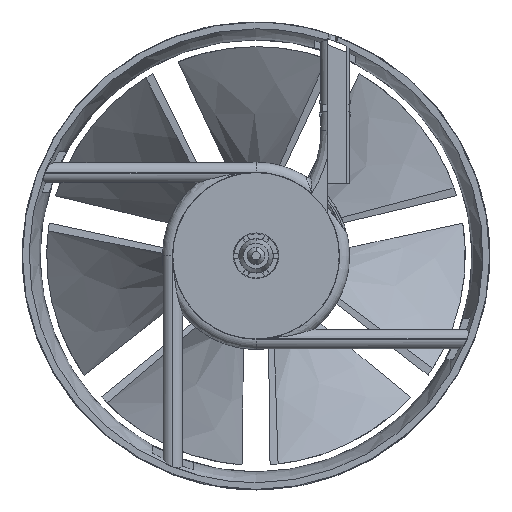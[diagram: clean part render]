
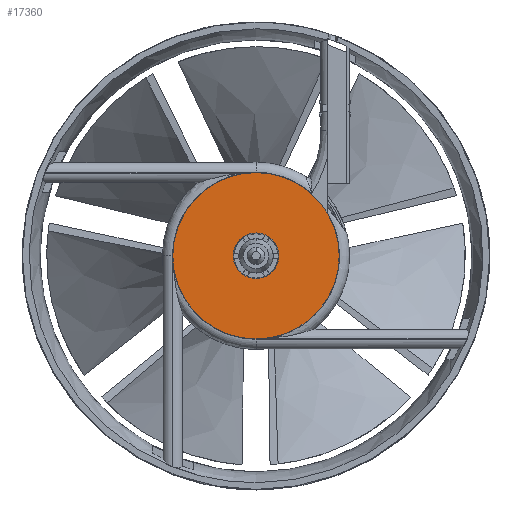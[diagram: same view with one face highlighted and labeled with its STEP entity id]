
A CAD part, top view. The second image highlights one B-rep face of the part: STEP entity #17360.
In plain terms, the highlighted planar face has unit normal (0, 0, 1).
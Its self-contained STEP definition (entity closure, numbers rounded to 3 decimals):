
#7147=CARTESIAN_POINT('',(0.,0.,-0.5));
#7148=DIRECTION('',(0.,0.,-1.));
#7149=DIRECTION('',(0.,1.,0.));
#7150=AXIS2_PLACEMENT_3D('',#7147,#7148,#7149);
#7152=CARTESIAN_POINT('',(0.,0.,-0.5));
#7153=DIRECTION('',(0.,0.,-1.));
#7154=DIRECTION('',(0.,-1.,0.));
#7155=AXIS2_PLACEMENT_3D('',#7152,#7153,#7154);
#7157=CARTESIAN_POINT('',(0.,0.,-0.5));
#7158=DIRECTION('',(0.,0.,1.));
#7159=DIRECTION('',(0.,-1.,0.));
#7160=AXIS2_PLACEMENT_3D('',#7157,#7158,#7159);
#7162=CARTESIAN_POINT('',(0.,0.,-0.5));
#7163=DIRECTION('',(0.,0.,1.));
#7164=DIRECTION('',(0.,1.,0.));
#7165=AXIS2_PLACEMENT_3D('',#7162,#7163,#7164);
#8684=CARTESIAN_POINT('',(0.,-6.65,-0.5));
#8685=VERTEX_POINT('',#8684);
#8686=CARTESIAN_POINT('',(0.,6.65,-0.5));
#8687=VERTEX_POINT('',#8686);
#8707=CARTESIAN_POINT('',(0.,24.25,-0.5));
#8708=CARTESIAN_POINT('',(0.,-24.25,-0.5));
#8709=VERTEX_POINT('',#8707);
#8710=VERTEX_POINT('',#8708);
#17345=CARTESIAN_POINT('',(0.,0.,-0.5));
#17346=DIRECTION('',(0.,0.,1.));
#17347=DIRECTION('',(0.,-1.,0.));
#17348=AXIS2_PLACEMENT_3D('',#17345,#17346,#17347);
#17349=PLANE('',#17348);
#17351=ORIENTED_EDGE('',*,*,#17350,.T.);
#17353=ORIENTED_EDGE('',*,*,#17352,.T.);
#17354=EDGE_LOOP('',(#17351,#17353));
#17355=FACE_OUTER_BOUND('',#17354,.F.);
#17356=ORIENTED_EDGE('',*,*,#17205,.T.);
#17357=ORIENTED_EDGE('',*,*,#17037,.T.);
#17358=EDGE_LOOP('',(#17356,#17357));
#17359=FACE_BOUND('',#17358,.F.);
#7151=CIRCLE('',#7150,24.25);
#7156=CIRCLE('',#7155,24.25);
#7161=CIRCLE('',#7160,6.65);
#7166=CIRCLE('',#7165,6.65);
#17037=EDGE_CURVE('',#8687,#8685,#7166,.T.);
#17205=EDGE_CURVE('',#8685,#8687,#7161,.T.);
#17350=EDGE_CURVE('',#8709,#8710,#7151,.T.);
#17352=EDGE_CURVE('',#8710,#8709,#7156,.T.);
#17360=ADVANCED_FACE('',(#17355,#17359),#17349,.T.);
